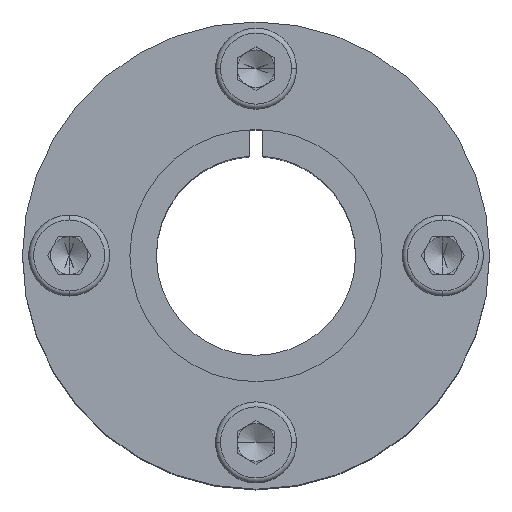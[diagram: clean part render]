
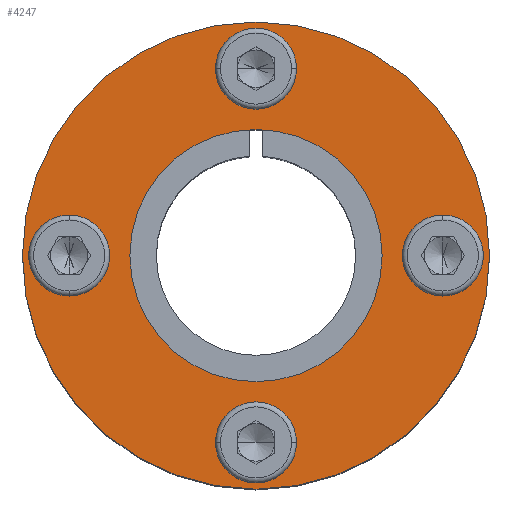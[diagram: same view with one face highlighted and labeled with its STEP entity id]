
A CAD part, top view. The second image highlights one B-rep face of the part: STEP entity #4247.
In plain terms, the highlighted planar face has unit normal (0, 0, 1).
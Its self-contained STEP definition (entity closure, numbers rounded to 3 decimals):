
#2 = VERTEX_POINT ( 'NONE', #1472 ) ;
#24 = AXIS2_PLACEMENT_3D ( 'NONE', #3952, #891, #4459 ) ;
#30 = DIRECTION ( 'NONE',  ( 0., 0., -1. ) ) ;
#124 = EDGE_CURVE ( 'NONE', #1757, #6153, #1110, .T. ) ;
#163 = CARTESIAN_POINT ( 'NONE',  ( 25.5, 0., 73.427 ) ) ;
#167 = CIRCLE ( 'NONE', #5867, 4.5 ) ;
#169 = DIRECTION ( 'NONE',  ( 0., 0., -1. ) ) ;
#184 = CARTESIAN_POINT ( 'NONE',  ( 0., 30., 73.427 ) ) ;
#201 = CIRCLE ( 'NONE', #6453, 37.5 ) ;
#214 = CARTESIAN_POINT ( 'NONE',  ( 20.248, 0., 73.427 ) ) ;
#261 = EDGE_CURVE ( 'NONE', #6153, #1757, #201, .T. ) ;
#265 = DIRECTION ( 'NONE',  ( 1., 0., 0. ) ) ;
#290 = DIRECTION ( 'NONE',  ( 0., 0., -1. ) ) ;
#315 = ORIENTED_EDGE ( 'NONE', *, *, #4150, .T. ) ;
#345 = AXIS2_PLACEMENT_3D ( 'NONE', #1329, #4885, #1829 ) ;
#441 = DIRECTION ( 'NONE',  ( 1., 0., 0. ) ) ;
#481 = CARTESIAN_POINT ( 'NONE',  ( -4.5, 30., 73.427 ) ) ;
#488 = VERTEX_POINT ( 'NONE', #3106 ) ;
#568 = CARTESIAN_POINT ( 'NONE',  ( -34.5, 0., 73.427 ) ) ;
#583 = AXIS2_PLACEMENT_3D ( 'NONE', #3102, #30, #3605 ) ;
#652 = DIRECTION ( 'NONE',  ( 0., 0., -1. ) ) ;
#712 = DIRECTION ( 'NONE',  ( 1., 0., 0. ) ) ;
#891 = DIRECTION ( 'NONE',  ( 0., 0., -1. ) ) ;
#898 = CARTESIAN_POINT ( 'NONE',  ( -30., 0., 73.427 ) ) ;
#1038 = EDGE_CURVE ( 'NONE', #6068, #1602, #3385, .T. ) ;
#1051 = VERTEX_POINT ( 'NONE', #2611 ) ;
#1110 = CIRCLE ( 'NONE', #4196, 37.5 ) ;
#1120 = FACE_BOUND ( 'NONE', #4924, .T. ) ;
#1198 = AXIS2_PLACEMENT_3D ( 'NONE', #5520, #2472, #6025 ) ;
#1329 = CARTESIAN_POINT ( 'NONE',  ( 30., 0., 73.427 ) ) ;
#1366 = VERTEX_POINT ( 'NONE', #1418 ) ;
#1407 = EDGE_CURVE ( 'NONE', #4785, #1051, #5179, .T. ) ;
#1418 = CARTESIAN_POINT ( 'NONE',  ( 4.5, -30., 73.427 ) ) ;
#1422 = DIRECTION ( 'NONE',  ( 1., 0., 0. ) ) ;
#1472 = CARTESIAN_POINT ( 'NONE',  ( -4.5, -30., 73.427 ) ) ;
#1602 = VERTEX_POINT ( 'NONE', #3065 ) ;
#1614 = AXIS2_PLACEMENT_3D ( 'NONE', #1759, #5345, #2289 ) ;
#1757 = VERTEX_POINT ( 'NONE', #2229 ) ;
#1759 = CARTESIAN_POINT ( 'NONE',  ( 0., 0., 73.427 ) ) ;
#1829 = DIRECTION ( 'NONE',  ( 1., 0., 0. ) ) ;
#1841 = VERTEX_POINT ( 'NONE', #214 ) ;
#1929 = ORIENTED_EDGE ( 'NONE', *, *, #3171, .T. ) ;
#2033 = DIRECTION ( 'NONE',  ( 0., 0., -1. ) ) ;
#2063 = EDGE_LOOP ( 'NONE', ( #4782, #3791 ) ) ;
#2095 = CIRCLE ( 'NONE', #4048, 4.5 ) ;
#2166 = VERTEX_POINT ( 'NONE', #568 ) ;
#2204 = PLANE ( 'NONE',  #6525 ) ;
#2212 = EDGE_LOOP ( 'NONE', ( #4662, #4744 ) ) ;
#2229 = CARTESIAN_POINT ( 'NONE',  ( 37.5, 0., 73.427 ) ) ;
#2289 = DIRECTION ( 'NONE',  ( 1., 0., 0. ) ) ;
#2358 = CIRCLE ( 'NONE', #1198, 4.5 ) ;
#2365 = CIRCLE ( 'NONE', #345, 4.5 ) ;
#2381 = EDGE_LOOP ( 'NONE', ( #2513, #6538 ) ) ;
#2472 = DIRECTION ( 'NONE',  ( 0., 0., -1. ) ) ;
#2513 = ORIENTED_EDGE ( 'NONE', *, *, #261, .F. ) ;
#2611 = CARTESIAN_POINT ( 'NONE',  ( 34.5, 0., 73.427 ) ) ;
#2679 = CIRCLE ( 'NONE', #24, 20.248 ) ;
#2732 = ORIENTED_EDGE ( 'NONE', *, *, #1407, .T. ) ;
#3044 = CIRCLE ( 'NONE', #4257, 4.5 ) ;
#3065 = CARTESIAN_POINT ( 'NONE',  ( 4.5, 30., 73.427 ) ) ;
#3102 = CARTESIAN_POINT ( 'NONE',  ( 0., 30., 73.427 ) ) ;
#3106 = CARTESIAN_POINT ( 'NONE',  ( -20.248, 0., 73.427 ) ) ;
#3171 = EDGE_CURVE ( 'NONE', #1051, #4785, #2365, .T. ) ;
#3254 = CARTESIAN_POINT ( 'NONE',  ( 0., 0., 73.427 ) ) ;
#3341 = DIRECTION ( 'NONE',  ( 0., 0., -1. ) ) ;
#3369 = CARTESIAN_POINT ( 'NONE',  ( 30., 0., 73.427 ) ) ;
#3385 = CIRCLE ( 'NONE', #583, 4.5 ) ;
#3506 = DIRECTION ( 'NONE',  ( 0., 0., -1. ) ) ;
#3605 = DIRECTION ( 'NONE',  ( 1., 0., 0. ) ) ;
#3634 = EDGE_CURVE ( 'NONE', #1602, #6068, #3772, .T. ) ;
#3671 = FACE_OUTER_BOUND ( 'NONE', #2381, .T. ) ;
#3715 = CARTESIAN_POINT ( 'NONE',  ( 0., -30., 73.427 ) ) ;
#3739 = AXIS2_PLACEMENT_3D ( 'NONE', #184, #3771, #712 ) ;
#3751 = DIRECTION ( 'NONE',  ( 1., 0., 0. ) ) ;
#3771 = DIRECTION ( 'NONE',  ( 0., 0., -1. ) ) ;
#3772 = CIRCLE ( 'NONE', #3739, 4.5 ) ;
#3791 = ORIENTED_EDGE ( 'NONE', *, *, #6356, .T. ) ;
#3879 = DIRECTION ( 'NONE',  ( 1., 0., 0. ) ) ;
#3952 = CARTESIAN_POINT ( 'NONE',  ( 0., 0., 73.427 ) ) ;
#4048 = AXIS2_PLACEMENT_3D ( 'NONE', #898, #4463, #1422 ) ;
#4100 = EDGE_CURVE ( 'NONE', #4222, #2166, #2095, .T. ) ;
#4150 = EDGE_CURVE ( 'NONE', #2166, #4222, #3044, .T. ) ;
#4196 = AXIS2_PLACEMENT_3D ( 'NONE', #6386, #3341, #265 ) ;
#4221 = DIRECTION ( 'NONE',  ( 1., 0., 0. ) ) ;
#4222 = VERTEX_POINT ( 'NONE', #5259 ) ;
#4247 = ADVANCED_FACE ( 'NONE', ( #1120, #6539, #5190, #6367, #5030, #3671 ), #2204, .F. ) ;
#4257 = AXIS2_PLACEMENT_3D ( 'NONE', #5086, #2033, #5595 ) ;
#4301 = EDGE_CURVE ( 'NONE', #1841, #488, #5274, .T. ) ;
#4459 = DIRECTION ( 'NONE',  ( 1., 0., 0. ) ) ;
#4463 = DIRECTION ( 'NONE',  ( 0., 0., -1. ) ) ;
#4660 = ORIENTED_EDGE ( 'NONE', *, *, #4100, .T. ) ;
#4662 = ORIENTED_EDGE ( 'NONE', *, *, #3634, .T. ) ;
#4738 = CARTESIAN_POINT ( 'NONE',  ( -37.5, 0., 73.427 ) ) ;
#4744 = ORIENTED_EDGE ( 'NONE', *, *, #1038, .T. ) ;
#4756 = EDGE_LOOP ( 'NONE', ( #5948, #5999 ) ) ;
#4782 = ORIENTED_EDGE ( 'NONE', *, *, #4301, .T. ) ;
#4785 = VERTEX_POINT ( 'NONE', #163 ) ;
#4885 = DIRECTION ( 'NONE',  ( 0., 0., -1. ) ) ;
#4924 = EDGE_LOOP ( 'NONE', ( #4660, #315 ) ) ;
#5030 = FACE_BOUND ( 'NONE', #2063, .T. ) ;
#5086 = CARTESIAN_POINT ( 'NONE',  ( -30., 0., 73.427 ) ) ;
#5108 = EDGE_LOOP ( 'NONE', ( #1929, #2732 ) ) ;
#5139 = EDGE_CURVE ( 'NONE', #1366, #2, #2358, .T. ) ;
#5179 = CIRCLE ( 'NONE', #5471, 4.5 ) ;
#5190 = FACE_BOUND ( 'NONE', #5108, .T. ) ;
#5259 = CARTESIAN_POINT ( 'NONE',  ( -25.5, 0., 73.427 ) ) ;
#5274 = CIRCLE ( 'NONE', #1614, 20.248 ) ;
#5345 = DIRECTION ( 'NONE',  ( 0., 0., -1. ) ) ;
#5471 = AXIS2_PLACEMENT_3D ( 'NONE', #3369, #290, #3879 ) ;
#5520 = CARTESIAN_POINT ( 'NONE',  ( 0., -30., 73.427 ) ) ;
#5595 = DIRECTION ( 'NONE',  ( 1., 0., 0. ) ) ;
#5867 = AXIS2_PLACEMENT_3D ( 'NONE', #3715, #652, #4221 ) ;
#5948 = ORIENTED_EDGE ( 'NONE', *, *, #5139, .T. ) ;
#5999 = ORIENTED_EDGE ( 'NONE', *, *, #6145, .T. ) ;
#6025 = DIRECTION ( 'NONE',  ( 1., 0., 0. ) ) ;
#6068 = VERTEX_POINT ( 'NONE', #481 ) ;
#6145 = EDGE_CURVE ( 'NONE', #2, #1366, #167, .T. ) ;
#6153 = VERTEX_POINT ( 'NONE', #4738 ) ;
#6356 = EDGE_CURVE ( 'NONE', #488, #1841, #2679, .T. ) ;
#6367 = FACE_BOUND ( 'NONE', #4756, .T. ) ;
#6386 = CARTESIAN_POINT ( 'NONE',  ( 0., 0., 73.427 ) ) ;
#6453 = AXIS2_PLACEMENT_3D ( 'NONE', #6550, #3506, #441 ) ;
#6525 = AXIS2_PLACEMENT_3D ( 'NONE', #3254, #169, #3751 ) ;
#6538 = ORIENTED_EDGE ( 'NONE', *, *, #124, .F. ) ;
#6539 = FACE_BOUND ( 'NONE', #2212, .T. ) ;
#6550 = CARTESIAN_POINT ( 'NONE',  ( 0., 0., 73.427 ) ) ;
